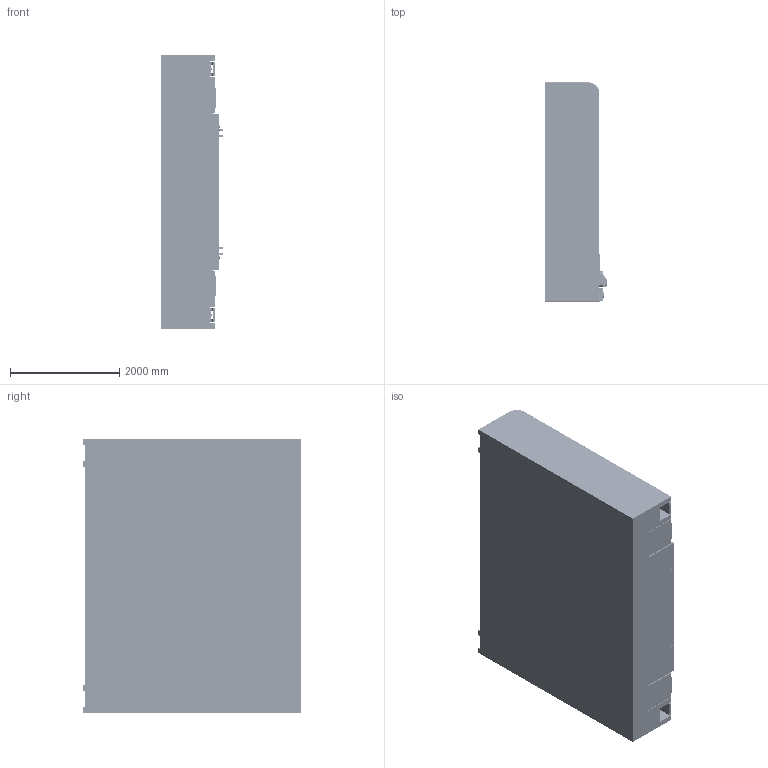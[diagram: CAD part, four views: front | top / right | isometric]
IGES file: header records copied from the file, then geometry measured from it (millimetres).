
Global section: file name: Wall5; native system: unknown; preprocessor: unknown; author: unknown; organization: unknown; date: 20220711.235727; units: centimetre
Bounding box: 1140.88 x 4000 x 5000 mm (x, y, z)
Volume: 15282952064.2 mm3; surface area: 97378997.6 mm2
Topology: 9 solids, 9 shells, 3972 faces, 8847 edges, 5320 vertices
Faces by surface type: bspline 3972
